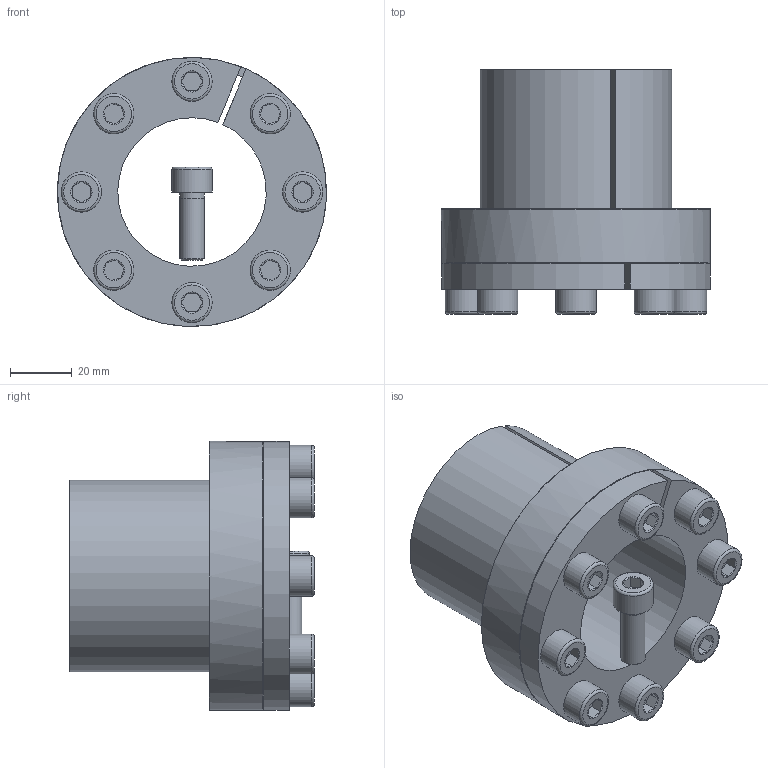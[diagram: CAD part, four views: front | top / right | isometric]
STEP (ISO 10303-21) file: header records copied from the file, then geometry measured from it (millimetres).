
FILE_DESCRIPTION( ( 'Unknown' ), '1' );
FILE_NAME( 'C:/Dokumente und Einstellungen/Sven/Desktop/homepage/cad - homepage/KBS80/KBS 80 - 48 x 62.stp', 'Unknown', ( 'Unknown' ), ( 'Unknown' ), 'XStep 1.0', 'Unknown', ' ' );
FILE_SCHEMA( ( 'automotive_design' ) );
Length unit declared in the file: millimetre
Products named in the file (10): Assem1; KBS 80 - 48 x 62; ISO EN DIN 4762 M8x22; ISO EN DIN 4762 M8x22-oa0; ISO EN DIN 4762 M8x22-oa1; ISO EN DIN 4762 M8x22-oa2; ISO EN DIN 4762 M8x22-oa3; ISO EN DIN 4762 M8x22-oa4; ISO EN DIN 4762 M8x22-oa5; ISO EN DIN 4762 M8x22-oa6
Bounding box: 87 x 79 x 87 mm (x, y, z)
Volume: 331659.2 mm3; surface area: 100925.6 mm2
Topology: 18 solids, 18 shells, 456 faces, 854 edges, 496 vertices
Faces by surface type: plane 208, cone 126, cylinder 90, torus 32
Full cylindrical faces by diameter (mm): 7 x16, 8 x48, 13 x16, 87 x2
Entity records: 5767 total; most frequent: CARTESIAN_POINT 1201, DIRECTION 932, ORIENTED_EDGE 682, AXIS2_PLACEMENT_3D 409, EDGE_LOOP 345, EDGE_CURVE 341, FACE_OUTER_BOUND 285, VERTEX_POINT 230
